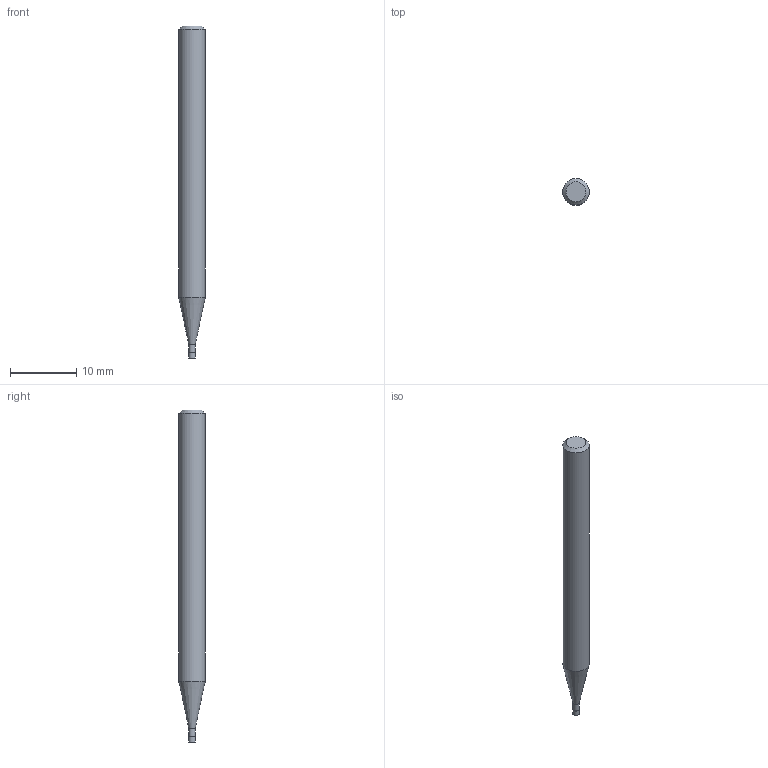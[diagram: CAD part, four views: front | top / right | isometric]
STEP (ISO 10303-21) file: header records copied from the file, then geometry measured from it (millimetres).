
FILE_DESCRIPTION((''),'2;1');
FILE_NAME('C:\Users\nsx150\AppData\Local\Temp\Mastercam 2021\RJ5U8K7RMU\TEMP.step','2021-04-21T16:40:52',(''),(''),'STEP Write','Mastercam 2021 ... CNC Software, Inc.','');
FILE_SCHEMA(('AUTOMOTIVE_DESIGN'));
Length unit declared in the file: millimetre
Products named in the file (1): None
Bounding box: 4 x 4 x 50 mm (x, y, z)
Volume: 552 mm3; surface area: 587 mm2
Topology: 2 solids, 2 shells, 9 faces, 12 edges, 7 vertices
Faces by surface type: plane 4, cylinder 3, cone 2
Full cylindrical faces by diameter (mm): 0.95 x1, 1 x1, 4 x1
Entity records: 211 total; most frequent: DIRECTION 36, CARTESIAN_POINT 25, AXIS2_PLACEMENT_3D 18, ORIENTED_EDGE 14, EDGE_LOOP 14, STYLED_ITEM 12, ADVANCED_FACE 9, FACE_BOUND 8
